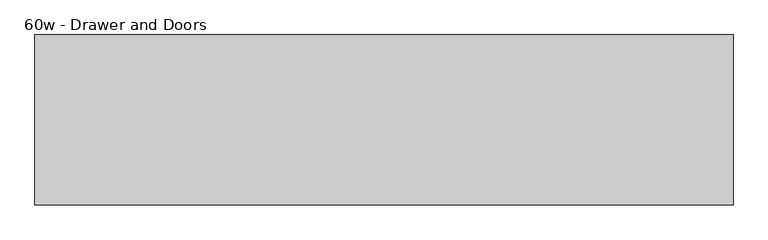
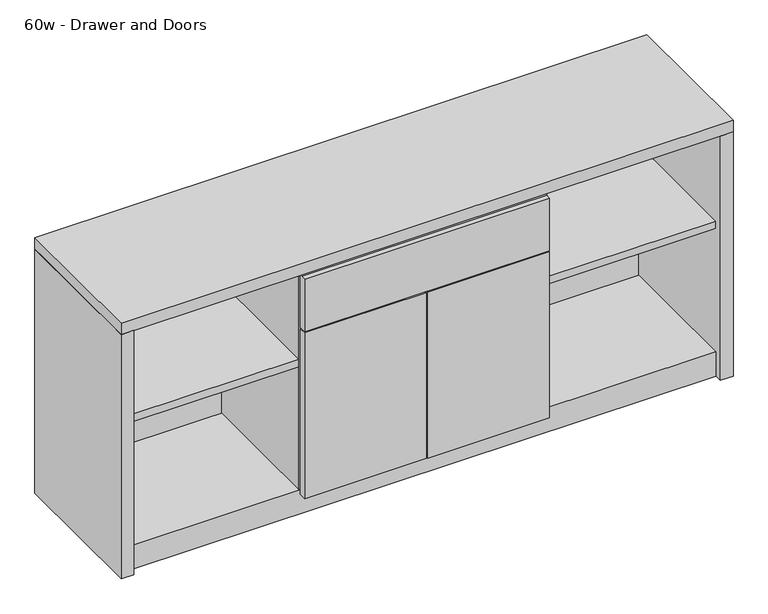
"""IFC4 building model written with IfcOpenShell, lengths in millimetres: furniture geometry, Haworth_ASeries_Credenza_2High : 60w - Drawer and Doors."""

from ifc_helpers import new_model, si_unit, frame, origin, origin_with_axes, place, context, project, spatial, polyline, outline, extrude, source, transform, mapped, element, save


def furniture_60w_drawer_and_doors_5b40b9ff(model_context):
    return source(origin(), model_context, "Body", "SweptSolid", [
        extrude(outline(polyline([(-744.5375, -371.475), (-744.5375, -352.425), (-441.325, -352.425), (-441.325, -371.475), (-744.5375, -371.475)])), frame((0.0, 0.0, 50.8), z_axis=(0.0, 0.0, 1.0), x_axis=(1.0, 0.0, 0.0)), (0.0, 0.0, 1.0), 436.5625),
        extrude(outline(polyline([(-134.9375, -371.475), (-438.15, -371.475), (-438.15, -352.425), (-134.9375, -352.425), (-134.9375, -371.475)])), frame((0.0, 0.0, 50.8), z_axis=(0.0, 0.0, 1.0), x_axis=(1.0, 0.0, 0.0)), (0.0, 0.0, 1.0), 436.5625),
        extrude(outline(polyline([(-352.425, 490.5375), (-371.475, 490.5375), (-371.475, 628.65), (-358.775, 628.65), (-358.775, 642.9375), (-352.425, 642.9375), (-352.425, 490.5375)])), frame((-744.5375, 0.0, 0.0), z_axis=(1.0, 0.0, 0.0), x_axis=(0.0, 1.0, 0.0)), (0.0, 0.0, 1.0), 609.6),
        extrude(outline(polyline([(290.5125, -19.05), (290.5125, -350.8375), (-131.7625, -350.8375), (-131.7625, -19.05), (290.5125, -19.05)])), frame((0.0, 0.0, 387.35), z_axis=(0.0, 0.0, 1.0), x_axis=(1.0, 0.0, 0.0)), (0.0, 0.0, 1.0), 19.05),
        extrude(outline(polyline([(-747.7125, -19.05), (-747.7125, -350.8375), (-1169.9875, -350.8375), (-1169.9875, -19.05), (-747.7125, -19.05)])), frame((0.0, 0.0, 387.35), z_axis=(0.0, 0.0, 1.0), x_axis=(1.0, 0.0, 0.0)), (0.0, 0.0, 1.0), 19.05),
        extrude(outline(polyline([(-150.8125, -19.05), (-150.8125, -350.8375), (-728.6625, -350.8375), (-728.6625, -19.05), (-150.8125, -19.05)])), frame((0.0, 0.0, 488.95), z_axis=(0.0, 0.0, 1.0), x_axis=(1.0, 0.0, 0.0)), (0.0, 0.0, 1.0), 19.05),
        extrude(outline(polyline([(-131.7625, -19.05), (-131.7625, -350.8375), (-150.8125, -350.8375), (-150.8125, -19.05), (-131.7625, -19.05)])), frame((0.0, 0.0, 63.5), z_axis=(0.0, 0.0, 1.0), x_axis=(1.0, 0.0, 0.0)), (0.0, 0.0, 1.0), 579.4375),
        extrude(outline(polyline([(-352.425, 0.0), (-352.425, 63.5), (-19.05, 63.5), (-19.05, 44.45), (-20.6375, 44.45), (-20.6375, 61.9125), (-350.8375, 61.9125), (-350.8375, 0.0), (-352.425, 0.0)])), frame((-1169.9875, 0.0, 0.0), z_axis=(1.0, 0.0, 0.0), x_axis=(0.0, 1.0, 0.0)), (0.0, 0.0, 1.0), 1460.5),
        extrude(outline(polyline([(-728.6625, -352.425), (-747.7125, -352.425), (-747.7125, -19.05), (-728.6625, -19.05), (-728.6625, -352.425)])), frame((0.0, 0.0, 63.5), z_axis=(0.0, 0.0, 1.0), x_axis=(1.0, 0.0, 0.0)), (0.0, 0.0, 1.0), 579.4375),
        extrude(outline(polyline([(-1201.7375, 0.0), (-1169.9875, 0.0), (-1169.9875, -371.475), (-1201.7375, -371.475), (-1201.7375, 0.0)])), origin_with_axes(), (0.0, 0.0, 1.0), 642.9375),
        extrude(outline(polyline([(322.2625, -371.475), (290.5125, -371.475), (290.5125, 0.0), (322.2625, 0.0), (322.2625, -371.475)])), origin_with_axes(), (0.0, 0.0, 1.0), 642.9375),
        extrude(outline(polyline([(322.2625, 0.0), (322.2625, -371.475), (-1201.7375, -371.475), (-1201.7375, 0.0), (322.2625, 0.0)])), frame((0.0, 0.0, 642.9375), z_axis=(0.0, 0.0, 1.0), x_axis=(1.0, 0.0, 0.0)), (0.0, 0.0, 1.0), 30.1625),
        extrude(outline(polyline([(290.5125, 0.0), (290.5125, -19.05), (-1169.9875, -19.05), (-1169.9875, 0.0), (290.5125, 0.0)])), frame((0.0, 0.0, 44.45), z_axis=(0.0, 0.0, 1.0), x_axis=(1.0, 0.0, 0.0)), (0.0, 0.0, 1.0), 598.4875),
    ])


if __name__ == "__main__":
    model = new_model("IFC4")
    model_context = context("Model", 3, world=origin())
    ifc_project = project(units=[si_unit("LENGTHUNIT", "METRE", prefix="MILLI")], contexts=[model_context])
    site = spatial("IfcSite", under=ifc_project)
    building = spatial("IfcBuilding", under=site)
    placement = place(None, origin())
    furniture_60w_drawer_and_doors_shape = furniture_60w_drawer_and_doors_5b40b9ff(model_context)
    element("IfcFurniture", 1, ObjectType="Haworth_ASeries_Credenza_2High : 60w - Drawer and Doors", at=placement, inside=building, context=model_context, shape_type="MappedRepresentation", body=[
        mapped(furniture_60w_drawer_and_doors_shape, transform((0.0, 0.0, 0.0), x_axis=(1.0, 0.0, 0.0), y_axis=(0.0, 1.0, 0.0), z_axis=(0.0, 0.0, 1.0))),
    ])
    save(model, "model.ifc")
